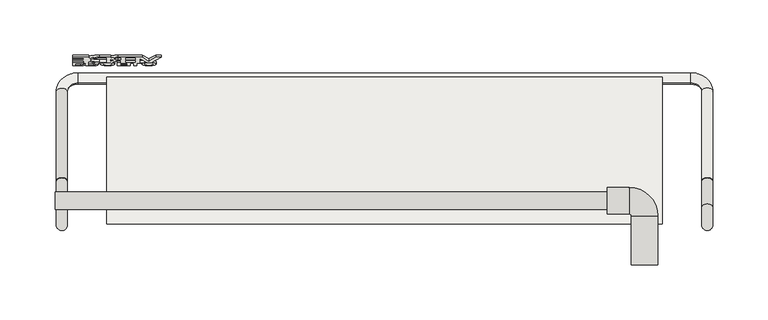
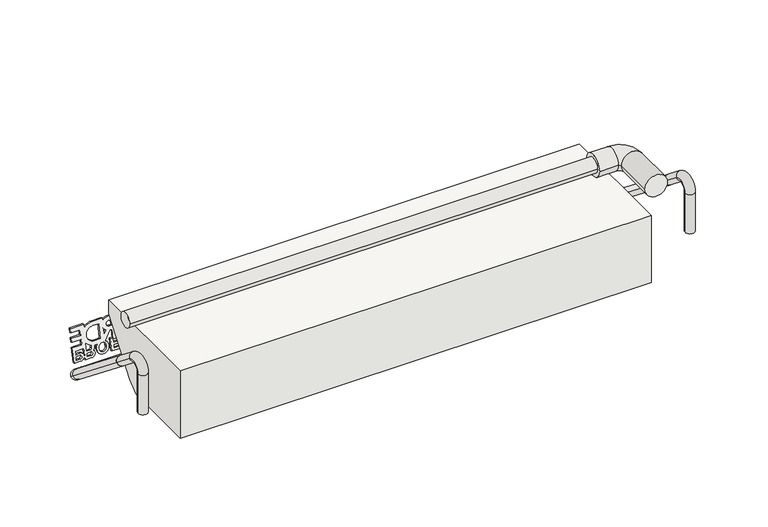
"""IFC4 building model written with IfcOpenShell, lengths in millimetres: covering geometry, panel VP Modulo prova ultima texture : panel VP Modulo prova ultima texture."""

from ifc_helpers import new_model, si_unit, point, frame, frame_2d, origin, place, context, project, spatial, polyline, circle_curve, ellipse_curve, trimmed, segment, composite_curve, outline, extrude, source, transform, mapped, element, save
from ifc_brep_helpers import plane_surface, cylinder_surface, revolved_surface, advanced_brep


def covering_8846b90d(model_context):
    return source(origin(), model_context, "Body", "SolidModel", [
        extrude(outline(composite_curve([segment(polyline([(34.7220757, 1e-07), (58.7996812, 1e-07)]), True, "CONTINUOUS"), segment(trimmed(circle_curve(frame_2d((65.0642789, 0.6025231)), 6.293506), [point((58.7996812, 1e-07))], [point((63.4156114, 6.6762463))], False, "CARTESIAN"), True, "CONTINUOUS"), segment(trimmed(circle_curve(frame_2d((65.6666707, 0.6823429)), 6.4026671), [point((63.4156114, 6.6762463))], [point((68.2653756, -5.1692277))], False, "CARTESIAN"), True, "CONTINUOUS"), segment(trimmed(circle_curve(frame_2d((65.2033193, 0.2002614)), 6.1812298), [point((68.2653756, -5.1692277))], [point((64.2093266, -5.9005239))], False, "CARTESIAN"), True, "CONTINUOUS"), segment(polyline([(64.2093266, -5.9005239), (66.3168223, -11.0476864), (75.8016954, -7.1641235), (76.862281, -9.7544045), (66.3136897, -14.0735049), (67.4636632, -16.8820993), (78.0122546, -12.5629989), (79.0728401, -15.1532799), (68.5242488, -19.4723803), (70.7348079, -24.8712557), (61.6931831, -28.5733316), (62.6270622, -30.8541559), (73.074875, -33.0832315)]), True, "CONTINUOUS"), segment(trimmed(circle_curve(frame_2d((79.2445531, -34.0648778)), 6.247284), [point((73.074875, -33.0832315))], [point((77.6263487, -28.0308102))], False, "CARTESIAN"), True, "CONTINUOUS"), segment(trimmed(circle_curve(frame_2d((79.877408, -34.0247135)), 6.4026671), [point((77.6263487, -28.0308102))], [point((82.4790998, -39.8749568))], False, "CARTESIAN"), True, "CONTINUOUS"), segment(trimmed(circle_curve(frame_2d((79.4067188, -34.4842118)), 6.2048092), [point((82.4790998, -39.8749568))], [point((77.0112197, -40.2079554))], False, "CARTESIAN"), True, "CONTINUOUS"), segment(polyline([(77.0112197, -40.2079554), (78.1993614, -43.1097684)]), True, "CONTINUOUS"), segment(trimmed(circle_curve(frame_2d((66.5130174, -47.6019204)), 12.5199867), [point((78.1993614, -43.1097684))], [point((78.4709528, -43.8927628))], False, "CARTESIAN"), True, "CONTINUOUS"), segment(polyline([(78.4709528, -43.8927628), (79.5384706, -43.4513167)]), True, "CONTINUOUS"), segment(trimmed(circle_curve(frame_2d((81.1236563, -46.5289178)), 3.4618554), [point((79.5384706, -43.4513167))], [point((83.2640668, -43.8080565))], False, "CARTESIAN"), True, "CONTINUOUS"), segment(trimmed(circle_curve(frame_2d((86.9930546, -44.5041075)), 3.7933939), [point((83.2640668, -43.8080565))], [point((90.5427255, -43.1663204))], False, "CARTESIAN"), True, "CONTINUOUS"), segment(polyline([(90.5427255, -43.1663204), (93.2835774, -49.8603364), (82.7349861, -54.1794367), (86.0955188, -62.3869066), (89.2825225, -61.0819941), (87.602256, -56.9782588)]), True, "CONTINUOUS"), segment(trimmed(circle_curve(frame_2d((91.2496312, -55.4763574)), 3.9444966), [point((87.602256, -56.9782588))], [point((87.6394877, -53.887044))], False, "CARTESIAN"), True, "CONTINUOUS"), segment(trimmed(circle_curve(frame_2d((91.0795376, -55.4029608)), 3.7592483), [point((87.6394877, -53.887044))], [point((89.8068057, -51.8657159))], False, "CARTESIAN"), True, "CONTINUOUS"), segment(trimmed(circle_curve(frame_2d((91.3826275, -55.3791794)), 3.8506675), [point((89.8068057, -51.8657159))], [point((94.9638437, -53.9640712))], False, "CARTESIAN"), True, "CONTINUOUS"), segment(polyline([(94.9638437, -53.9640712), (97.7046957, -60.6580873), (83.1186527, -66.6303144), (79.3291228, -57.3750995), (74.3249248, -59.4240587), (78.1144547, -68.6792736), (74.077003, -70.3324004), (70.2874731, -61.0771855), (65.283275, -63.1261447), (69.0728049, -72.3813597), (65.0353533, -74.0344865), (59.5536495, -60.6464545), (63.573194, -59.0006598)]), True, "CONTINUOUS"), segment(trimmed(circle_curve(frame_2d((67.4307018, -47.253167)), 12.364625), [point((63.573194, -59.0006598))], [point((55.9786182, -51.9151121))], False, "CARTESIAN"), True, "CONTINUOUS"), segment(polyline([(55.9786182, -51.9151121), (51.9745896, -42.1360244), (54.8949193, -40.940301)]), True, "CONTINUOUS"), segment(trimmed(circle_curve(frame_2d((56.8950264, -33.2916253)), 7.9058629), [point((54.8949193, -40.940301))], [point((49.6285766, -36.4063284))], False, "CARTESIAN"), True, "CONTINUOUS"), segment(polyline([(49.6285766, -36.4063284), (41.3068641, -16.0821087), (53.1289126, -4.45118), (36.5446028, -4.4511801), (34.7220757, 1e-07)]), True, "CONTINUOUS")], self_intersect=False), holes=[composite_curve([segment(polyline([(91.3698144, -60.2273564), (94.5568181, -58.9224439), (93.0429626, -55.2251362)]), True, "CONTINUOUS"), segment(trimmed(circle_curve(frame_2d((91.4494608, -55.8775924)), 1.7219023), [point((93.0429626, -55.2251362))], [point((89.8559589, -56.5300487))], True, "CARTESIAN"), True, "CONTINUOUS"), segment(polyline([(89.8559589, -56.5300487), (91.3698144, -60.2273564)]), True, "CONTINUOUS")], self_intersect=False), composite_curve([segment(polyline([(77.6536647, -53.2354382), (84.8614042, -50.2842432), (83.4804082, -46.9114198)]), True, "CONTINUOUS"), segment(trimmed(circle_curve(frame_2d((82.0055188, -47.9798171)), 1.8212006), [point((83.4804082, -46.9114198))], [point((81.4459172, -46.2467223))], True, "CARTESIAN"), True, "CONTINUOUS"), segment(polyline([(81.4459172, -46.2467223), (79.005401, -46.7813864)]), True, "CONTINUOUS"), segment(trimmed(circle_curve(frame_2d((66.800009, -47.5936694)), 12.2323913), [point((79.005401, -46.7813864))], [point((77.6536647, -53.2354382))], False, "CARTESIAN"), True, "CONTINUOUS")], self_intersect=False), composite_curve([segment(polyline([(80.0469884, -37.8463889), (81.818283, -37.1211357)]), True, "CONTINUOUS"), segment(trimmed(circle_curve(frame_2d((80.3714599, -33.822414)), 3.6020635), [point((81.818283, -37.1211357))], [point((79.0874461, -30.4569764))], True, "CARTESIAN"), True, "CONTINUOUS"), segment(polyline([(79.0874461, -30.4569764), (77.318043, -31.1814551)]), True, "CONTINUOUS"), segment(trimmed(circle_curve(frame_2d((78.7640582, -34.4805345)), 3.6020668), [point((77.318043, -31.1814551))], [point((80.0469884, -37.8463889))], True, "CARTESIAN"), True, "CONTINUOUS")], self_intersect=False), composite_curve([segment(polyline([(64.8767089, 4.25008), (63.1073058, 3.5256013)]), True, "CONTINUOUS"), segment(trimmed(circle_curve(frame_2d((64.5533209, 0.2265218)), 3.6020668), [point((63.1073058, 3.5256013))], [point((65.8362512, -3.1393324))], True, "CARTESIAN"), True, "CONTINUOUS"), segment(polyline([(65.8362512, -3.1393324), (67.6075457, -2.4140793)]), True, "CONTINUOUS"), segment(trimmed(circle_curve(frame_2d((66.1607226, 0.8846424)), 3.6020635), [point((67.6075457, -2.4140793))], [point((64.8767089, 4.25008))], True, "CARTESIAN"), True, "CONTINUOUS")], self_intersect=False), composite_curve([segment(polyline([(49.3862171, -14.3776131), (62.966359, -8.8172502), (61.7031824, -5.7321785), (62.543491, -5.3881158)]), True, "CONTINUOUS"), segment(trimmed(circle_curve(frame_2d((65.2914898, 0.489271)), 6.4880792), [point((62.543491, -5.3881158))], [point((60.2929855, -3.647168))], False, "CARTESIAN"), True, "CONTINUOUS"), segment(polyline([(60.2929855, -3.647168), (49.3862171, -14.3776131)]), True, "CONTINUOUS")], self_intersect=False), polyline([(47.598802, -19.9351411), (50.9593347, -28.1426109), (55.9635327, -26.0936517), (52.603, -17.8861818), (47.598802, -19.9351411)]), polyline([(60.0009844, -24.4405249), (65.0051824, -22.3915657), (61.6446497, -14.1840958), (56.6404517, -16.233055), (60.0009844, -24.4405249)]), composite_curve([segment(polyline([(52.6514049, -32.2754702), (53.6920251, -34.8169895)]), True, "CONTINUOUS"), segment(trimmed(circle_curve(frame_2d((56.2265541, -33.8697215)), 2.7057631), [point((53.6920251, -34.8169895))], [point((58.6823172, -32.7337722))], True, "CARTESIAN"), True, "CONTINUOUS"), segment(polyline([(58.6823172, -32.7337722), (57.6557066, -30.2264686), (52.6514049, -32.2754702)]), True, "CONTINUOUS")], self_intersect=False), composite_curve([segment(polyline([(62.001845, -38.030384), (66.4600604, -36.2049763), (63.0935891, -35.4866796)]), True, "CONTINUOUS"), segment(trimmed(circle_curve(frame_2d((53.8245829, -33.0146099)), 9.5929977), [point((63.0935891, -35.4866796))], [point((62.001845, -38.030384))], False, "CARTESIAN"), True, "CONTINUOUS")], self_intersect=False), composite_curve([segment(polyline([(57.7042152, -44.6157146), (60.0160698, -50.2619852)]), True, "CONTINUOUS"), segment(trimmed(circle_curve(frame_2d((67.1061304, -47.5504315)), 7.5908816), [point((60.0160698, -50.2619852))], [point((74.0619175, -44.51094))], True, "CARTESIAN"), True, "CONTINUOUS"), segment(polyline([(74.0619175, -44.51094), (71.7500629, -38.8646693), (57.7042152, -44.6157146)]), True, "CONTINUOUS")], self_intersect=False), composite_curve([segment(polyline([(86.9486962, -49.4296055), (90.1356999, -48.124693), (88.6218444, -44.4273853)]), True, "CONTINUOUS"), segment(trimmed(circle_curve(frame_2d((87.0283425, -45.0798416)), 1.7219023), [point((88.6218444, -44.4273853))], [point((85.4348407, -45.7322978))], True, "CARTESIAN"), True, "CONTINUOUS"), segment(polyline([(85.4348407, -45.7322978), (86.9486962, -49.4296055)]), True, "CONTINUOUS")], self_intersect=False)]), frame((-189.083657, 210.3688908, 354.8086038), z_axis=(0.0, -0.9769248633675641, 0.21358326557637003), x_axis=(-0.3789159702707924, -0.19765659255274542, -0.9040766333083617)), (0.0, 0.0, 1.0), 2.0),
        extrude(outline(polyline([(76.2116947, -23.2064962), (79.3986984, -21.9015837), (77.1881392, -16.5027082), (79.2754312, -15.6480706), (82.5465759, -23.6372271), (70.9744162, -28.3754256), (69.9138306, -25.7851445), (74.1244027, -24.0611338), (71.9138436, -18.6622584), (74.0011355, -17.8076207), (76.2116947, -23.2064962)])), frame((-189.083657, 210.3688908, 354.8086038), z_axis=(0.0, -0.9769248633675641, 0.21358326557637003), x_axis=(-0.3789159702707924, -0.19765659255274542, -0.9040766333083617)), (0.0, 0.0, 1.0), 2.0),
        advanced_brep(
        [(-298.2404059, 63.5015434, 418.5185877), (-298.2404059, 79.5015434, 418.5185877), (201.5404059, 63.5015434, 418.5185877), (201.5404059, 79.5015434, 418.5185877), (201.5404059, 59.5015434, 418.5185877), (201.5404059, 83.5015434, 418.5185877), (221.5404059, 59.5015434, 418.5185877), (221.5404059, 83.5015434, 418.5185877), (223.5404059, 57.5015434, 418.5185877), (247.5404059, 57.5015434, 418.5185877), (223.5404059, 13.5015434, 418.5185877), (247.5404059, 13.5015434, 418.5185877)],
        [
            (0, 1, circle_curve(frame((-298.2404059, 71.5015434, 418.5185877), z_axis=(-1.0, 0.0, 0.0), x_axis=(0.0, 1.0, 0.0)), 8.0)),
            (1, 0, circle_curve(frame((-298.2404059, 71.5015434, 418.5185877), z_axis=(-1.0, 0.0, 0.0), x_axis=(0.0, 1.0, 0.0)), 8.0)),
            (0, 2),
            (2, 3, circle_curve(frame((201.5404059, 71.5015434, 418.5185877), z_axis=(-1.0, 0.0, 0.0), x_axis=(0.0, 1.0, 0.0)), 8.0)),
            (3, 1),
            (3, 2, circle_curve(frame((201.5404059, 71.5015434, 418.5185877), z_axis=(-1.0, 0.0, 0.0), x_axis=(0.0, 1.0, 0.0)), 8.0)),
            (4, 5, circle_curve(frame((201.5404059, 71.5015434, 418.5185877), z_axis=(-1.0, 0.0, 0.0), x_axis=(0.0, 1.0, 0.0)), 12.0)),
            (5, 4, circle_curve(frame((201.5404059, 71.5015434, 418.5185877), z_axis=(-1.0, 0.0, 0.0), x_axis=(0.0, 1.0, 0.0)), 12.0)),
            (4, 6),
            (6, 7, circle_curve(frame((221.5404059, 71.5015434, 418.5185877), z_axis=(-1.0, 0.0, 0.0), x_axis=(0.0, 1.0, 0.0)), 12.0)),
            (7, 5),
            (7, 6, circle_curve(frame((221.5404059, 71.5015434, 418.5185877), z_axis=(-1.0, 0.0, 0.0), x_axis=(0.0, 1.0, 0.0)), 12.0)),
            (6, 8, circle_curve(frame((221.5404059, 57.5015434, 418.5185877), z_axis=(0.0, 0.0, -1.0), x_axis=(0.0, 1.0, 0.0)), 2.0)),
            (8, 9, circle_curve(frame((235.5404059, 57.5015434, 418.5185877), z_axis=(0.0, 1.0, 0.0), x_axis=(1.0, 0.0, 0.0)), 12.0)),
            (9, 7, circle_curve(frame((221.5404059, 57.5015434, 418.5185877), z_axis=(0.0, 0.0, 1.0), x_axis=(0.0, 1.0, 0.0)), 26.0)),
            (9, 8, circle_curve(frame((235.5404059, 57.5015434, 418.5185877), z_axis=(0.0, 1.0, 0.0), x_axis=(1.0, 0.0, 0.0)), 12.0)),
            (10, 11, circle_curve(frame((235.5404059, 13.5015434, 418.5185877), z_axis=(0.0, -1.0, 0.0), x_axis=(1.0, 0.0, 0.0)), 12.0)),
            (11, 10, circle_curve(frame((235.5404059, 13.5015434, 418.5185877), z_axis=(0.0, -1.0, 0.0), x_axis=(1.0, 0.0, 0.0)), 12.0)),
            (8, 10),
            (11, 9),
        ],
        [
            plane_surface(frame((-298.2404059, 63.5015434, 418.5185877), z_axis=(-1.0, 0.0, 0.0), x_axis=(0.0, 0.0, 1.0))),
            cylinder_surface(frame((-298.2404059, 71.5015434, 418.5185877), z_axis=(-1.0, 0.0, 0.0), x_axis=(0.0, 1.0, 0.0)), 8.0),
            plane_surface(frame((201.5404059, 63.5015434, 418.5185877), z_axis=(-1.0, 0.0, 0.0), x_axis=(0.0, 0.0, 1.0))),
            cylinder_surface(frame((201.5404059, 71.5015434, 418.5185877), z_axis=(-1.0, 0.0, 0.0), x_axis=(0.0, 1.0, 0.0)), 12.0),
            revolved_surface(trimmed(ellipse_curve(frame((221.5404059, 71.5015434, 418.5185877), z_axis=(-1.0, 0.0, 0.0), x_axis=(0.0, 1.0, 0.0)), 12.0, 12.0), [point((221.5404059, 59.5015434, 418.5185877))], [point((221.5404059, 83.5015434, 418.5185877))], True, "CARTESIAN"), (221.5404059, 57.5015434, 418.5185877), (0.0, 0.0, -1.0)),
            revolved_surface(trimmed(ellipse_curve(frame((221.5404059, 71.5015434, 418.5185877), z_axis=(-1.0, 0.0, 0.0), x_axis=(0.0, 1.0, 0.0)), 12.0, 12.0), [point((221.5404059, 83.5015434, 418.5185877))], [point((221.5404059, 59.5015434, 418.5185877))], True, "CARTESIAN"), (221.5404059, 57.5015434, 418.5185877), (0.0, 0.0, -1.0)),
            plane_surface(frame((227.5404059, 13.5015434, 418.5185877), z_axis=(0.0, -1.0, 0.0), x_axis=(0.0, 0.0, 1.0))),
            cylinder_surface(frame((235.5404059, 57.5015434, 418.5185877), z_axis=(0.0, 1.0, 0.0), x_axis=(1.0, 0.0, 0.0)), 12.0),
        ],
        [
            (0, [[1, 2]]),
            (1, [[-1, 3, 4, 5]]),
            (1, [[-2, -5, 6, -3]]),
            (2, [[7, 8], [-4, -6]]),
            (3, [[-7, 9, 10, 11]]),
            (3, [[-8, -11, 12, -9]]),
            (4, [[-10, 13, 14, 15]]),
            (5, [[-12, -15, 16, -13]]),
            (6, [[17, 18]]),
            (7, [[-14, 19, -18, 20]]),
            (7, [[-16, -20, -17, -19]]),
        ],
    ),
        advanced_brep(
        [(297.2404059, 89.2250572, 359.3205295), (287.2404059, 89.2251428, 359.3206374), (297.2404059, 170.6491384, 294.8006845), (287.2404059, 170.6492239, 294.8007925), (277.2404059, 178.4869122, 288.5902657), (277.2404059, 186.324515, 282.379631), (-277.2404059, 186.324515, 282.379631), (-277.2404059, 178.4869122, 288.5902657), (-287.2404059, 170.6492239, 294.8007925), (-297.2404059, 170.6491384, 294.8006845), (-297.2404059, 89.2250494, 359.3205356), (-287.2404059, 89.225135, 359.3206436)],
        [
            (0, 1, circle_curve(frame((292.2404059, 89.2250572, 359.3205295), z_axis=(0.0, -0.7837688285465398, 0.6210526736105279), x_axis=(1.0, 0.0, 0.0)), 5.0)),
            (1, 0, circle_curve(frame((292.2404059, 89.2250572, 359.3205295), z_axis=(0.0, -0.7837688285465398, 0.6210526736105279), x_axis=(1.0, 0.0, 0.0)), 5.0)),
            (0, 2),
            (2, 3, circle_curve(frame((292.2404059, 170.6491384, 294.8006845), z_axis=(0.0, -0.7837688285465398, 0.6210526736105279), x_axis=(1.0, 0.0, 0.0)), 5.0)),
            (3, 1),
            (3, 2, circle_curve(frame((292.2404059, 170.6491384, 294.8006845), z_axis=(0.0, -0.7837688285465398, 0.6210526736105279), x_axis=(1.0, 0.0, 0.0)), 5.0)),
            (4, 3, circle_curve(frame((277.2404059, 170.6492239, 294.8007925), z_axis=(0.0, -0.6210526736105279, -0.7837688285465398), x_axis=(1.0, 0.0, 0.0)), 10.0)),
            (2, 5, circle_curve(frame((277.2404059, 170.6491384, 294.8006845), z_axis=(0.0, 0.6210526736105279, 0.7837688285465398), x_axis=(1.0, 0.0, 0.0)), 20.0)),
            (5, 4, circle_curve(frame((277.2404059, 182.4056708, 285.4848944), z_axis=(1.0, 0.0, 0.0), x_axis=(0.0, 0.7837688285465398, -0.6210526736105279)), 5.0)),
            (4, 5, circle_curve(frame((277.2404059, 182.4056708, 285.4848944), z_axis=(1.0, 0.0, 0.0), x_axis=(0.0, 0.7837688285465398, -0.6210526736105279)), 5.0)),
            (5, 6),
            (6, 7, circle_curve(frame((-277.2404059, 182.4056708, 285.4848944), z_axis=(1.0, 0.0, 0.0), x_axis=(0.0, 0.7837688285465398, -0.6210526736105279)), 5.0)),
            (7, 4),
            (7, 6, circle_curve(frame((-277.2404059, 182.4056708, 285.4848944), z_axis=(1.0, 0.0, 0.0), x_axis=(0.0, 0.7837688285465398, -0.6210526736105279)), 5.0)),
            (8, 7, circle_curve(frame((-277.2404059, 170.6492239, 294.8007925), z_axis=(0.0, -0.6210526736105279, -0.7837688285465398), x_axis=(0.0, 0.7837688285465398, -0.6210526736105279)), 10.0)),
            (6, 9, circle_curve(frame((-277.2404059, 170.6491384, 294.8006845), z_axis=(0.0, 0.6210526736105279, 0.7837688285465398), x_axis=(0.0, 0.7837688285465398, -0.6210526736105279)), 20.0)),
            (9, 8, circle_curve(frame((-292.2404059, 170.6491384, 294.8006845), z_axis=(0.0, 0.7837688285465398, -0.6210526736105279), x_axis=(-1.0000000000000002, 0.0, 0.0)), 5.0)),
            (8, 9, circle_curve(frame((-292.2404059, 170.6491384, 294.8006845), z_axis=(0.0, 0.7837688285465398, -0.6210526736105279), x_axis=(-1.0000000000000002, 0.0, 0.0)), 5.0)),
            (10, 11, circle_curve(frame((-292.2404059, 89.2250494, 359.3205356), z_axis=(0.0, -0.7837688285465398, 0.6210526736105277), x_axis=(-1.0, 0.0, 0.0)), 5.0)),
            (11, 10, circle_curve(frame((-292.2404059, 89.2250494, 359.3205356), z_axis=(0.0, -0.7837688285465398, 0.6210526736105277), x_axis=(-1.0, 0.0, 0.0)), 5.0)),
            (9, 10),
            (11, 8),
        ],
        [
            plane_surface(frame((287.2404059, 92.3304015, 363.2394757), z_axis=(0.0, -0.7837688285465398, 0.6210526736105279), x_axis=(0.0, -0.6210526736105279, -0.7837688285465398))),
            cylinder_surface(frame((292.2404059, 89.2250572, 359.3205295), z_axis=(0.0, -0.7837688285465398, 0.6210526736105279), x_axis=(1.0, 0.0, 0.0)), 5.0),
            revolved_surface(trimmed(ellipse_curve(frame((292.2404059, 170.6491384, 294.8006845), z_axis=(0.0, -0.7837688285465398, 0.6210526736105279), x_axis=(1.0, 0.0, 0.0)), 5.0, 5.0), [point((297.2404059, 170.6491384, 294.8006845))], [point((287.2404059, 170.6492239, 294.8007925))], True, "CARTESIAN"), (277.2404059, 173.7544827, 298.7196308), (0.0, 0.6210526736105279, 0.7837688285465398)),
            revolved_surface(trimmed(ellipse_curve(frame((292.2404059, 170.6491384, 294.8006845), z_axis=(0.0, -0.7837688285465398, 0.6210526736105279), x_axis=(1.0, 0.0, 0.0)), 5.0, 5.0), [point((287.2404059, 170.6492239, 294.8007925))], [point((297.2404059, 170.6491384, 294.8006845))], True, "CARTESIAN"), (277.2404059, 173.7544827, 298.7196308), (0.0, 0.6210526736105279, 0.7837688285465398)),
            cylinder_surface(frame((277.2404059, 182.4056708, 285.4848944), z_axis=(1.0000000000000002, 0.0, 0.0), x_axis=(0.0, 0.7837688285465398, -0.6210526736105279)), 5.0),
            revolved_surface(trimmed(ellipse_curve(frame((-277.2404059, 182.4056708, 285.4848944), z_axis=(1.0000000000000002, 0.0, 0.0), x_axis=(0.0, 0.7837688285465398, -0.6210526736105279)), 5.0, 5.0), [point((-277.2404059, 186.324515, 282.379631))], [point((-277.2404059, 178.4869122, 288.5902657))], True, "CARTESIAN"), (-277.2404059, 173.7544827, 298.7196308), (0.0, 0.6210526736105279, 0.7837688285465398)),
            revolved_surface(trimmed(ellipse_curve(frame((-277.2404059, 182.4056708, 285.4848944), z_axis=(1.0000000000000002, 0.0, 0.0), x_axis=(0.0, 0.7837688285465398, -0.6210526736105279)), 5.0, 5.0), [point((-277.2404059, 178.4869122, 288.5902657))], [point((-277.2404059, 186.324515, 282.379631))], True, "CARTESIAN"), (-277.2404059, 173.7544827, 298.7196308), (0.0, 0.6210526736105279, 0.7837688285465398)),
            plane_surface(frame((-287.2404059, 92.3303937, 363.2394819), z_axis=(0.0, -0.7837688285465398, 0.6210526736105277), x_axis=(0.0, -0.6210526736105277, -0.7837688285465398))),
            cylinder_surface(frame((-292.2404059, 170.6491384, 294.8006845), z_axis=(0.0, 0.7837688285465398, -0.6210526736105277), x_axis=(-1.0, 0.0, 0.0)), 5.0),
        ],
        [
            (0, [[1, 2]]),
            (1, [[-1, 3, 4, 5]]),
            (1, [[-2, -5, 6, -3]]),
            (2, [[7, -4, 8, 9]]),
            (3, [[-8, -6, -7, 10]]),
            (4, [[-9, 11, 12, 13]]),
            (4, [[-10, -13, 14, -11]]),
            (5, [[15, -12, 16, 17]]),
            (6, [[-16, -14, -15, 18]]),
            (7, [[19, 20]]),
            (8, [[-17, 21, -20, 22]]),
            (8, [[-18, -22, -19, -21]]),
        ],
    ),
        advanced_brep(
        [(-287.2404059, 89.225135, 359.3206436), (-297.2404059, 89.225135, 359.3206436), (-297.2404059, 65.7120701, 377.9522238), (-287.2404059, 65.7120701, 377.9522238), (-287.2404059, 49.5015434, 370.1145355), (-297.2404059, 49.5015434, 370.1145355), (-287.2404059, 49.5015434, 325.8123903), (-297.2404059, 49.5015434, 325.8123903)],
        [
            (0, 1, circle_curve(frame((-292.2404059, 89.225135, 359.3206436), z_axis=(0.0, 0.7837688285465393, -0.6210526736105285), x_axis=(-1.0, 0.0, 0.0)), 5.0)),
            (1, 0, circle_curve(frame((-292.2404059, 89.225135, 359.3206436), z_axis=(0.0, 0.7837688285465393, -0.6210526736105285), x_axis=(-1.0, 0.0, 0.0)), 5.0)),
            (1, 2),
            (2, 3, circle_curve(frame((-292.2404059, 65.7120701, 377.9522238), z_axis=(0.0, 0.7837688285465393, -0.6210526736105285), x_axis=(-1.0, 0.0, 0.0)), 5.0)),
            (3, 0),
            (3, 2, circle_curve(frame((-292.2404059, 65.7120701, 377.9522238), z_axis=(0.0, 0.7837688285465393, -0.6210526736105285), x_axis=(-1.0, 0.0, 0.0)), 5.0)),
            (4, 3, circle_curve(frame((-287.2404059, 59.5015434, 370.1145355), z_axis=(-1.0, 0.0, 0.0), x_axis=(0.0, 0.6210526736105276, 0.78376882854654)), 10.0)),
            (2, 5, circle_curve(frame((-297.2404059, 59.5015434, 370.1145355), z_axis=(1.0, 0.0, 0.0), x_axis=(0.0, 0.6210526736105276, 0.78376882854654)), 10.0)),
            (5, 4, circle_curve(frame((-292.2404059, 49.5015434, 370.1145355), z_axis=(0.0, 0.0, 1.0), x_axis=(-1.0, 0.0, 0.0)), 5.0)),
            (4, 5, circle_curve(frame((-292.2404059, 49.5015434, 370.1145355), z_axis=(0.0, 0.0, 1.0), x_axis=(-1.0, 0.0, 0.0)), 5.0)),
            (6, 7, circle_curve(frame((-292.2404059, 49.5015434, 325.8123903), z_axis=(0.0, 0.0, -1.0), x_axis=(-1.0, 0.0, 0.0)), 5.0)),
            (7, 6, circle_curve(frame((-292.2404059, 49.5015434, 325.8123903), z_axis=(0.0, 0.0, -1.0), x_axis=(-1.0, 0.0, 0.0)), 5.0)),
            (5, 7),
            (6, 4),
        ],
        [
            plane_surface(frame((-287.2404059, 89.225135, 359.3206436), z_axis=(0.0, 0.7837688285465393, -0.6210526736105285), x_axis=(-1.0, 0.0, 0.0))),
            cylinder_surface(frame((-292.2404059, 89.225135, 359.3206436), z_axis=(0.0, 0.7837688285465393, -0.6210526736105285), x_axis=(-1.0, 0.0, 0.0)), 5.0),
            revolved_surface(trimmed(ellipse_curve(frame((-292.2404059, 65.7120701, 377.9522238), z_axis=(0.0, 0.78376882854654, -0.6210526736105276), x_axis=(-1.0, 0.0, 0.0)), 5.0, 5.0), [point((-297.2404059, 65.7120701, 377.9522238))], [point((-287.2404059, 65.7120701, 377.9522238))], True, "CARTESIAN"), (-287.2404059, 59.5015434, 370.1145355), (1.0, 0.0, 0.0)),
            revolved_surface(trimmed(ellipse_curve(frame((-292.2404059, 65.7120701, 377.9522238), z_axis=(0.0, 0.78376882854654, -0.6210526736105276), x_axis=(-1.0, 0.0, 0.0)), 5.0, 5.0), [point((-287.2404059, 65.7120701, 377.9522238))], [point((-297.2404059, 65.7120701, 377.9522238))], True, "CARTESIAN"), (-287.2404059, 59.5015434, 370.1145355), (1.0, 0.0, 0.0)),
            plane_surface(frame((-287.2404059, 49.5015434, 325.8123903), z_axis=(0.0, 0.0, -1.0), x_axis=(-1.0, 0.0, 0.0))),
            cylinder_surface(frame((-292.2404059, 49.5015434, 370.1145355), z_axis=(0.0, 0.0, 1.0), x_axis=(-1.0, 0.0, 0.0)), 5.0),
        ],
        [
            (0, [[1, 2]]),
            (1, [[-2, 3, 4, 5]]),
            (1, [[-1, -5, 6, -3]]),
            (2, [[7, -4, 8, 9]]),
            (3, [[-8, -6, -7, 10]]),
            (4, [[11, 12]]),
            (5, [[-9, 13, -11, 14]]),
            (5, [[-10, -14, -12, -13]]),
        ],
    ),
        advanced_brep(
        [(287.2404059, 89.2251242, 359.320614), (297.2404059, 89.2251242, 359.320614), (287.2404059, 65.7120779, 377.9522176), (297.2404059, 65.7120779, 377.9522176), (297.2404059, 49.5015434, 370.1145355), (287.2404059, 49.5015434, 370.1145355), (287.2404059, 49.5015434, 325.8123903), (297.2404059, 49.5015434, 325.8123903)],
        [
            (0, 1, circle_curve(frame((292.2404059, 89.2251242, 359.320614), z_axis=(0.0, 0.7837682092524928, -0.621053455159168), x_axis=(1.0, 0.0, 0.0)), 5.0)),
            (1, 0, circle_curve(frame((292.2404059, 89.2251242, 359.320614), z_axis=(0.0, 0.7837682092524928, -0.621053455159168), x_axis=(1.0, 0.0, 0.0)), 5.0)),
            (0, 2),
            (2, 3, circle_curve(frame((292.2404059, 65.7120779, 377.9522176), z_axis=(0.0, 0.7837682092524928, -0.621053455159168), x_axis=(1.0, 0.0, 0.0)), 5.0)),
            (3, 1),
            (3, 2, circle_curve(frame((292.2404059, 65.7120779, 377.9522176), z_axis=(0.0, 0.7837682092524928, -0.621053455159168), x_axis=(1.0, 0.0, 0.0)), 5.0)),
            (4, 3, circle_curve(frame((297.2404059, 59.5015434, 370.1145355), z_axis=(-1.0, 0.0, 0.0), x_axis=(0.0, 0.6210534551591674, 0.7837682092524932)), 10.0)),
            (2, 5, circle_curve(frame((287.2404059, 59.5015434, 370.1145355), z_axis=(1.0, 0.0, 0.0), x_axis=(0.0, 0.6210534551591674, 0.7837682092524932)), 10.0)),
            (5, 4, circle_curve(frame((292.2404059, 49.5015434, 370.1145355), z_axis=(0.0, 0.0, 1.0), x_axis=(1.0, 0.0, 0.0)), 5.0)),
            (4, 5, circle_curve(frame((292.2404059, 49.5015434, 370.1145355), z_axis=(0.0, 0.0, 1.0), x_axis=(1.0, 0.0, 0.0)), 5.0)),
            (6, 7, circle_curve(frame((292.2404059, 49.5015434, 325.8123903), z_axis=(0.0, 0.0, -1.0), x_axis=(1.0, 0.0, 0.0)), 5.0)),
            (7, 6, circle_curve(frame((292.2404059, 49.5015434, 325.8123903), z_axis=(0.0, 0.0, -1.0), x_axis=(1.0, 0.0, 0.0)), 5.0)),
            (5, 6),
            (7, 4),
        ],
        [
            plane_surface(frame((287.2404059, 89.2251242, 359.320614), z_axis=(0.0, 0.7837682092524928, -0.621053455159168), x_axis=(1.0, 0.0, 0.0))),
            cylinder_surface(frame((292.2404059, 89.2251242, 359.320614), z_axis=(0.0, 0.7837682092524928, -0.621053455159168), x_axis=(1.0, 0.0, 0.0)), 5.0),
            revolved_surface(trimmed(ellipse_curve(frame((292.2404059, 65.7120779, 377.9522176), z_axis=(0.0, 0.7837682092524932, -0.6210534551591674), x_axis=(1.0, 0.0, 0.0)), 5.0, 5.0), [point((287.2404059, 65.7120779, 377.9522176))], [point((297.2404059, 65.7120779, 377.9522176))], True, "CARTESIAN"), (287.2404059, 59.5015434, 370.1145355), (1.0, 0.0, 0.0)),
            revolved_surface(trimmed(ellipse_curve(frame((292.2404059, 65.7120779, 377.9522176), z_axis=(0.0, 0.7837682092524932, -0.6210534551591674), x_axis=(1.0, 0.0, 0.0)), 5.0, 5.0), [point((297.2404059, 65.7120779, 377.9522176))], [point((287.2404059, 65.7120779, 377.9522176))], True, "CARTESIAN"), (287.2404059, 59.5015434, 370.1145355), (1.0, 0.0, 0.0)),
            plane_surface(frame((287.2404059, 49.5015434, 325.8123903), z_axis=(0.0, 0.0, -1.0), x_axis=(1.0, 0.0, 0.0))),
            cylinder_surface(frame((292.2404059, 49.5015434, 370.1145355), z_axis=(0.0, 0.0, 1.0), x_axis=(1.0, 0.0, 0.0)), 5.0),
        ],
        [
            (0, [[1, 2]]),
            (1, [[-1, 3, 4, 5]]),
            (1, [[-2, -5, 6, -3]]),
            (2, [[7, -4, 8, 9]]),
            (3, [[-8, -6, -7, 10]]),
            (4, [[11, 12]]),
            (5, [[-9, 13, -12, 14]]),
            (5, [[-10, -14, -11, -13]]),
        ],
    ),
        extrude(outline(polyline([(132.1625373, 280.858924), (50.5015434, 280.858924), (50.5015434, 356.858924), (183.4941844, 356.858924), (183.4941844, 341.1922009), (143.8388149, 291.1471056), (132.1625373, 280.858924)])), frame((-251.5404059, 0.0, 0.0), z_axis=(1.0, 0.0, 0.0), x_axis=(0.0, 1.0, 0.0)), (0.0, 0.0, 1.0), 503.0808119),
    ])


if __name__ == "__main__":
    model = new_model("IFC4")
    model_context = context("Model", 3, world=origin())
    ifc_project = project(units=[si_unit("LENGTHUNIT", "METRE", prefix="MILLI")], contexts=[model_context])
    site = spatial("IfcSite", under=ifc_project)
    building = spatial("IfcBuilding", under=site)
    placement = place(None, origin())
    covering_shape = covering_8846b90d(model_context)
    element("IfcCovering", 1, ObjectType="panel VP Modulo prova ultima texture : panel VP Modulo prova ultima texture", at=placement, inside=building, context=model_context, shape_type="MappedRepresentation", body=[
        mapped(covering_shape, transform((0.0, 0.0, 0.0), x_axis=(1.0, 0.0, 0.0), y_axis=(0.0, 1.0, 0.0), z_axis=(0.0, 0.0, 1.0))),
    ])
    save(model, "model.ifc")
